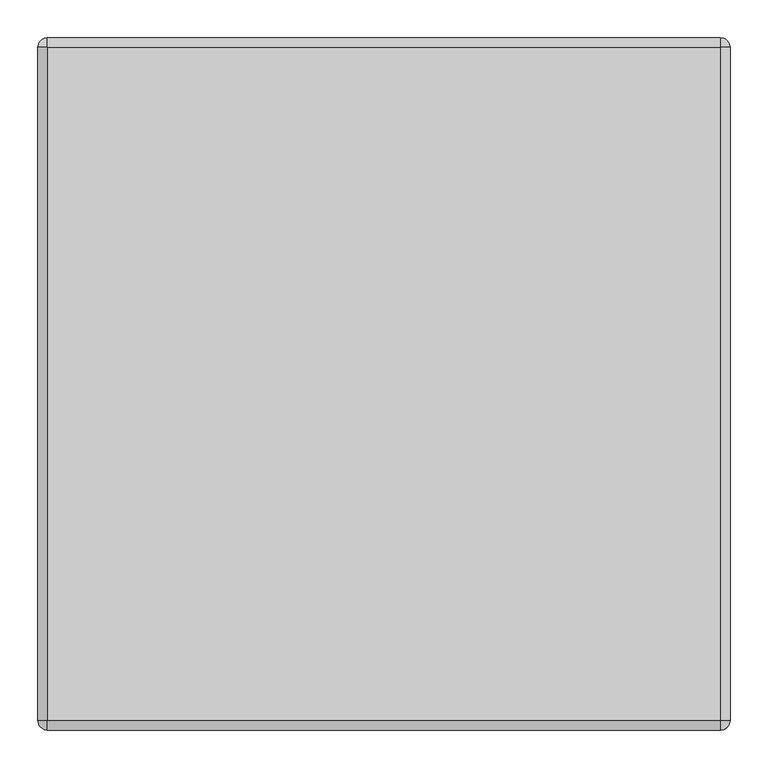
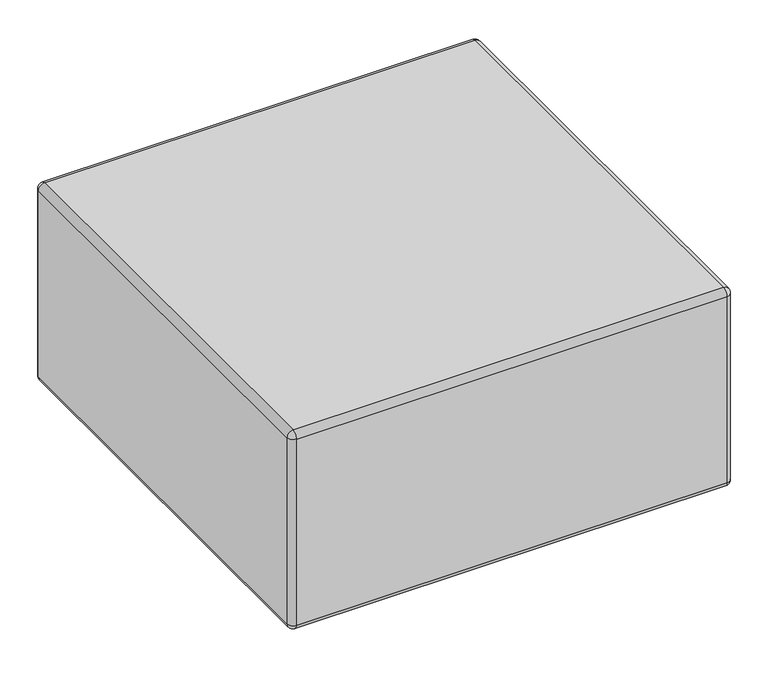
"""IFC4 building model written with IfcOpenShell, lengths in millimetres: furniture geometry, KFI Studios - Conversa : 36”x36” Seat."""

from ifc_helpers import new_model, si_unit, point, frame, origin, place, context, project, spatial, polyline, circle_curve, ellipse_curve, trimmed, source, transform, mapped, element, save
from ifc_brep_helpers import plane_surface, cylinder_surface, revolved_surface, advanced_brep


def furniture_c2843c0f(model_context):
    return source(origin(), model_context, "Body", "AdvancedBrep", [
        advanced_brep(
        [(373.3895895, -365.125, 25.4), (356.8604105, -365.125, 25.4), (365.125, -365.125, 25.4), (373.3895895, -365.125, 14.2843611), (356.8604105, -365.125, 14.2843611), (371.7876354, -365.125, 14.2843611), (358.4623646, -365.125, 14.2843611), (371.7876354, -365.125, 12.7064551), (358.4623646, -365.125, 12.7064551), (373.3890671, -365.125, 12.7064551), (356.8609329, -365.125, 12.7064551), (382.5741215, -365.125, 3.1950529), (347.6758785, -365.125, 3.1950529), (382.5741215, -365.125, 0.0), (347.6758785, -365.125, 0.0), (365.125, -365.125, 0.0)],
        [
            (0, 1, circle_curve(frame((365.125, -365.125, 25.4), z_axis=(0.0, 0.0, 1.0), x_axis=(-1.0, 0.0, 0.0)), 8.2645895)),
            (1, 2),
            (2, 0),
            (1, 0, circle_curve(frame((365.125, -365.125, 25.4), z_axis=(0.0, 0.0, 1.0), x_axis=(-1.0, 0.0, 0.0)), 8.2645895)),
            (3, 4, circle_curve(frame((365.125, -365.125, 14.2843611), z_axis=(0.0, 0.0, 1.0), x_axis=(-1.0, 0.0, 0.0)), 8.2645895)),
            (4, 1),
            (0, 3),
            (4, 3, circle_curve(frame((365.125, -365.125, 14.2843611), z_axis=(0.0, 0.0, 1.0), x_axis=(-1.0, 0.0, 0.0)), 8.2645895)),
            (5, 6, circle_curve(frame((365.125, -365.125, 14.2843611), z_axis=(0.0, 0.0, 1.0), x_axis=(-1.0, 0.0, 0.0)), 6.6626354)),
            (6, 4),
            (3, 5),
            (6, 5, circle_curve(frame((365.125, -365.125, 14.2843611), z_axis=(0.0, 0.0, 1.0), x_axis=(-1.0, 0.0, 0.0)), 6.6626354)),
            (7, 8, circle_curve(frame((365.125, -365.125, 12.7064551), z_axis=(0.0, 0.0, 1.0), x_axis=(-1.0, 0.0, 0.0)), 6.6626354)),
            (8, 6),
            (5, 7),
            (8, 7, circle_curve(frame((365.125, -365.125, 12.7064551), z_axis=(0.0, 0.0, 1.0), x_axis=(-1.0, 0.0, 0.0)), 6.6626354)),
            (9, 10, circle_curve(frame((365.125, -365.125, 12.7064551), z_axis=(0.0, 0.0, 1.0), x_axis=(-1.0, 0.0, 0.0)), 8.2640671)),
            (10, 8),
            (7, 9),
            (10, 9, circle_curve(frame((365.125, -365.125, 12.7064551), z_axis=(0.0, 0.0, 1.0), x_axis=(-1.0, 0.0, 0.0)), 8.2640671)),
            (11, 12, circle_curve(frame((365.125, -365.125, 3.1950529), z_axis=(0.0, 0.0, 1.0), x_axis=(-1.0, 0.0, 0.0)), 17.4491215)),
            (12, 10),
            (9, 11),
            (12, 11, circle_curve(frame((365.125, -365.125, 3.1950529), z_axis=(0.0, 0.0, 1.0), x_axis=(-1.0, 0.0, 0.0)), 17.4491215)),
            (13, 14, circle_curve(frame((365.125, -365.125, 0.0), z_axis=(0.0, 0.0, 1.0), x_axis=(-1.0, 0.0, 0.0)), 17.4491215)),
            (14, 12),
            (11, 13),
            (14, 13, circle_curve(frame((365.125, -365.125, 0.0), z_axis=(0.0, 0.0, 1.0), x_axis=(-1.0, 0.0, 0.0)), 17.4491215)),
            (15, 14),
            (13, 15),
        ],
        [
            plane_surface(frame((365.125, -365.125, 25.4), z_axis=(0.0, 0.0, 1.0), x_axis=(-1.0, 0.0, 0.0))),
            cylinder_surface(frame((365.125, -365.125, 33.820929), z_axis=(0.0, 0.0, -1.0), x_axis=(-1.0, 0.0, 0.0)), 8.2645895),
            plane_surface(frame((365.125, -365.125, 14.2843611), z_axis=(0.0, 0.0, -1.0), x_axis=(-1.0, 0.0, 0.0))),
            cylinder_surface(frame((365.125, -365.125, 33.820929), z_axis=(0.0, 0.0, -1.0), x_axis=(-1.0, 0.0, 0.0)), 6.6626354),
            plane_surface(frame((365.125, -365.125, 12.7064551), z_axis=(0.0, 0.0, 1.0), x_axis=(-1.0, 0.0, 0.0))),
            revolved_surface(polyline([(356.8609329, -365.125, 12.7064551), (347.6758785, -365.125, 3.1950529)]), (365.125, -365.125, 33.820929), (0.0, 0.0, -1.0)),
            cylinder_surface(frame((365.125, -365.125, 33.820929), z_axis=(0.0, 0.0, -1.0), x_axis=(-1.0, 0.0, 0.0)), 17.4491215),
            plane_surface(frame((365.125, -365.125, 0.0), z_axis=(0.0, 0.0, -1.0), x_axis=(-1.0, 0.0, 0.0))),
        ],
        [
            (0, [[1, 2, 3]]),
            (0, [[4, -3, -2]]),
            (1, [[5, 6, -1, 7]]),
            (1, [[8, -7, -4, -6]]),
            (2, [[9, 10, -5, 11]]),
            (2, [[12, -11, -8, -10]]),
            (3, [[13, 14, -9, 15]]),
            (3, [[16, -15, -12, -14]]),
            (4, [[17, 18, -13, 19]]),
            (4, [[20, -19, -16, -18]]),
            (5, [[21, 22, -17, 23]]),
            (5, [[24, -23, -20, -22]]),
            (6, [[25, 26, -21, 27]]),
            (6, [[28, -27, -24, -26]]),
            (7, [[29, -25, 30]]),
            (7, [[-30, -28, -29]]),
        ],
    ),
        advanced_brep(
        [(-356.8604105, -365.125, 25.4), (-373.3895895, -365.125, 25.4), (-365.125, -365.125, 25.4), (-356.8604105, -365.125, 14.2843611), (-373.3895895, -365.125, 14.2843611), (-358.4623646, -365.125, 14.2843611), (-371.7876354, -365.125, 14.2843611), (-358.4623646, -365.125, 12.7064551), (-371.7876354, -365.125, 12.7064551), (-356.8609329, -365.125, 12.7064551), (-373.3890671, -365.125, 12.7064551), (-347.6758785, -365.125, 3.1950529), (-382.5741215, -365.125, 3.1950529), (-347.6758785, -365.125, 0.0), (-382.5741215, -365.125, 0.0), (-365.125, -365.125, 0.0)],
        [
            (0, 1, circle_curve(frame((-365.125, -365.125, 25.4), z_axis=(0.0, 0.0, 1.0), x_axis=(-1.0, 0.0, 0.0)), 8.2645895)),
            (1, 2),
            (2, 0),
            (1, 0, circle_curve(frame((-365.125, -365.125, 25.4), z_axis=(0.0, 0.0, 1.0), x_axis=(-1.0, 0.0, 0.0)), 8.2645895)),
            (3, 4, circle_curve(frame((-365.125, -365.125, 14.2843611), z_axis=(0.0, 0.0, 1.0), x_axis=(-1.0, 0.0, 0.0)), 8.2645895)),
            (4, 1),
            (0, 3),
            (4, 3, circle_curve(frame((-365.125, -365.125, 14.2843611), z_axis=(0.0, 0.0, 1.0), x_axis=(-1.0, 0.0, 0.0)), 8.2645895)),
            (5, 6, circle_curve(frame((-365.125, -365.125, 14.2843611), z_axis=(0.0, 0.0, 1.0), x_axis=(-1.0, 0.0, 0.0)), 6.6626354)),
            (6, 4),
            (3, 5),
            (6, 5, circle_curve(frame((-365.125, -365.125, 14.2843611), z_axis=(0.0, 0.0, 1.0), x_axis=(-1.0, 0.0, 0.0)), 6.6626354)),
            (7, 8, circle_curve(frame((-365.125, -365.125, 12.7064551), z_axis=(0.0, 0.0, 1.0), x_axis=(-1.0, 0.0, 0.0)), 6.6626354)),
            (8, 6),
            (5, 7),
            (8, 7, circle_curve(frame((-365.125, -365.125, 12.7064551), z_axis=(0.0, 0.0, 1.0), x_axis=(-1.0, 0.0, 0.0)), 6.6626354)),
            (9, 10, circle_curve(frame((-365.125, -365.125, 12.7064551), z_axis=(0.0, 0.0, 1.0), x_axis=(-1.0, 0.0, 0.0)), 8.2640671)),
            (10, 8),
            (7, 9),
            (10, 9, circle_curve(frame((-365.125, -365.125, 12.7064551), z_axis=(0.0, 0.0, 1.0), x_axis=(-1.0, 0.0, 0.0)), 8.2640671)),
            (11, 12, circle_curve(frame((-365.125, -365.125, 3.1950529), z_axis=(0.0, 0.0, 1.0), x_axis=(-1.0, 0.0, 0.0)), 17.4491215)),
            (12, 10),
            (9, 11),
            (12, 11, circle_curve(frame((-365.125, -365.125, 3.1950529), z_axis=(0.0, 0.0, 1.0), x_axis=(-1.0, 0.0, 0.0)), 17.4491215)),
            (13, 14, circle_curve(frame((-365.125, -365.125, 0.0), z_axis=(0.0, 0.0, 1.0), x_axis=(-1.0, 0.0, 0.0)), 17.4491215)),
            (14, 12),
            (11, 13),
            (14, 13, circle_curve(frame((-365.125, -365.125, 0.0), z_axis=(0.0, 0.0, 1.0), x_axis=(-1.0, 0.0, 0.0)), 17.4491215)),
            (15, 14),
            (13, 15),
        ],
        [
            plane_surface(frame((-365.125, -365.125, 25.4), z_axis=(0.0, 0.0, 1.0), x_axis=(-1.0, 0.0, 0.0))),
            cylinder_surface(frame((-365.125, -365.125, 33.820929), z_axis=(0.0, 0.0, -1.0), x_axis=(-1.0, 0.0, 0.0)), 8.2645895),
            plane_surface(frame((-365.125, -365.125, 14.2843611), z_axis=(0.0, 0.0, -1.0), x_axis=(-1.0, 0.0, 0.0))),
            cylinder_surface(frame((-365.125, -365.125, 33.820929), z_axis=(0.0, 0.0, -1.0), x_axis=(-1.0, 0.0, 0.0)), 6.6626354),
            plane_surface(frame((-365.125, -365.125, 12.7064551), z_axis=(0.0, 0.0, 1.0), x_axis=(-1.0, 0.0, 0.0))),
            revolved_surface(polyline([(-373.3890671, -365.125, 12.7064551), (-382.5741215, -365.125, 3.1950529)]), (-365.125, -365.125, 33.820929), (0.0, 0.0, -1.0)),
            cylinder_surface(frame((-365.125, -365.125, 33.820929), z_axis=(0.0, 0.0, -1.0), x_axis=(-1.0, 0.0, 0.0)), 17.4491215),
            plane_surface(frame((-365.125, -365.125, 0.0), z_axis=(0.0, 0.0, -1.0), x_axis=(-1.0, 0.0, 0.0))),
        ],
        [
            (0, [[1, 2, 3]]),
            (0, [[4, -3, -2]]),
            (1, [[5, 6, -1, 7]]),
            (1, [[8, -7, -4, -6]]),
            (2, [[9, 10, -5, 11]]),
            (2, [[12, -11, -8, -10]]),
            (3, [[13, 14, -9, 15]]),
            (3, [[16, -15, -12, -14]]),
            (4, [[17, 18, -13, 19]]),
            (4, [[20, -19, -16, -18]]),
            (5, [[21, 22, -17, 23]]),
            (5, [[24, -23, -20, -22]]),
            (6, [[25, 26, -21, 27]]),
            (6, [[28, -27, -24, -26]]),
            (7, [[29, -25, 30]]),
            (7, [[-30, -28, -29]]),
        ],
    ),
        advanced_brep(
        [(373.3895895, 365.125, 25.4), (365.125, 365.125, 25.4), (356.8604105, 365.125, 25.4), (373.3895895, 365.125, 14.2843611), (356.8604105, 365.125, 14.2843611), (371.7876354, 365.125, 14.2843611), (358.4623646, 365.125, 14.2843611), (371.7876354, 365.125, 12.7064551), (358.4623646, 365.125, 12.7064551), (373.3890671, 365.125, 12.7064551), (356.8609329, 365.125, 12.7064551), (382.5741215, 365.125, 3.1950529), (347.6758785, 365.125, 3.1950529), (382.5741215, 365.125, 0.0), (347.6758785, 365.125, 0.0), (365.125, 365.125, 0.0)],
        [
            (0, 1),
            (1, 2),
            (2, 0, circle_curve(frame((365.125, 365.125, 25.4), z_axis=(0.0, 0.0, 1.0), x_axis=(-1.0, 0.0, 0.0)), 8.2645895)),
            (0, 2, circle_curve(frame((365.125, 365.125, 25.4), z_axis=(0.0, 0.0, 1.0), x_axis=(-1.0, 0.0, 0.0)), 8.2645895)),
            (3, 0),
            (2, 4),
            (4, 3, circle_curve(frame((365.125, 365.125, 14.2843611), z_axis=(0.0, 0.0, 1.0), x_axis=(-1.0, 0.0, 0.0)), 8.2645895)),
            (3, 4, circle_curve(frame((365.125, 365.125, 14.2843611), z_axis=(0.0, 0.0, 1.0), x_axis=(-1.0, 0.0, 0.0)), 8.2645895)),
            (5, 3),
            (4, 6),
            (6, 5, circle_curve(frame((365.125, 365.125, 14.2843611), z_axis=(0.0, 0.0, 1.0), x_axis=(-1.0, 0.0, 0.0)), 6.6626354)),
            (5, 6, circle_curve(frame((365.125, 365.125, 14.2843611), z_axis=(0.0, 0.0, 1.0), x_axis=(-1.0, 0.0, 0.0)), 6.6626354)),
            (7, 5),
            (6, 8),
            (8, 7, circle_curve(frame((365.125, 365.125, 12.7064551), z_axis=(0.0, 0.0, 1.0), x_axis=(-1.0, 0.0, 0.0)), 6.6626354)),
            (7, 8, circle_curve(frame((365.125, 365.125, 12.7064551), z_axis=(0.0, 0.0, 1.0), x_axis=(-1.0, 0.0, 0.0)), 6.6626354)),
            (9, 7),
            (8, 10),
            (10, 9, circle_curve(frame((365.125, 365.125, 12.7064551), z_axis=(0.0, 0.0, 1.0), x_axis=(-1.0, 0.0, 0.0)), 8.2640671)),
            (9, 10, circle_curve(frame((365.125, 365.125, 12.7064551), z_axis=(0.0, 0.0, 1.0), x_axis=(-1.0, 0.0, 0.0)), 8.2640671)),
            (11, 9),
            (10, 12),
            (12, 11, circle_curve(frame((365.125, 365.125, 3.1950529), z_axis=(0.0, 0.0, 1.0), x_axis=(-1.0, 0.0, 0.0)), 17.4491215)),
            (11, 12, circle_curve(frame((365.125, 365.125, 3.1950529), z_axis=(0.0, 0.0, 1.0), x_axis=(-1.0, 0.0, 0.0)), 17.4491215)),
            (13, 11),
            (12, 14),
            (14, 13, circle_curve(frame((365.125, 365.125, 0.0), z_axis=(0.0, 0.0, 1.0), x_axis=(-1.0, 0.0, 0.0)), 17.4491215)),
            (13, 14, circle_curve(frame((365.125, 365.125, 0.0), z_axis=(0.0, 0.0, 1.0), x_axis=(-1.0, 0.0, 0.0)), 17.4491215)),
            (15, 13),
            (14, 15),
        ],
        [
            plane_surface(frame((365.125, 365.125, 25.4), z_axis=(0.0, 0.0, 1.0), x_axis=(-1.0, 0.0, 0.0))),
            cylinder_surface(frame((365.125, 365.125, 33.820929), z_axis=(0.0, 0.0, -1.0), x_axis=(-1.0, 0.0, 0.0)), 8.2645895),
            plane_surface(frame((365.125, 365.125, 14.2843611), z_axis=(0.0, 0.0, -1.0), x_axis=(-1.0, 0.0, 0.0))),
            cylinder_surface(frame((365.125, 365.125, 33.820929), z_axis=(0.0, 0.0, -1.0), x_axis=(-1.0, 0.0, 0.0)), 6.6626354),
            plane_surface(frame((365.125, 365.125, 12.7064551), z_axis=(0.0, 0.0, 1.0), x_axis=(-1.0, 0.0, 0.0))),
            revolved_surface(polyline([(356.8609329, 365.125, 12.7064551), (347.6758785, 365.125, 3.1950529)]), (365.125, 365.125, 33.820929), (0.0, 0.0, -1.0)),
            cylinder_surface(frame((365.125, 365.125, 33.820929), z_axis=(0.0, 0.0, -1.0), x_axis=(-1.0, 0.0, 0.0)), 17.4491215),
            plane_surface(frame((365.125, 365.125, 0.0), z_axis=(0.0, 0.0, -1.0), x_axis=(-1.0, 0.0, 0.0))),
        ],
        [
            (0, [[1, 2, 3]]),
            (0, [[-2, -1, 4]]),
            (1, [[5, -3, 6, 7]]),
            (1, [[-6, -4, -5, 8]]),
            (2, [[9, -7, 10, 11]]),
            (2, [[-10, -8, -9, 12]]),
            (3, [[13, -11, 14, 15]]),
            (3, [[-14, -12, -13, 16]]),
            (4, [[17, -15, 18, 19]]),
            (4, [[-18, -16, -17, 20]]),
            (5, [[21, -19, 22, 23]]),
            (5, [[-22, -20, -21, 24]]),
            (6, [[25, -23, 26, 27]]),
            (6, [[-26, -24, -25, 28]]),
            (7, [[29, -27, 30]]),
            (7, [[-30, -28, -29]]),
        ],
    ),
        advanced_brep(
        [(-356.8604105, 365.125, 25.4), (-365.125, 365.125, 25.4), (-373.3895895, 365.125, 25.4), (-356.8604105, 365.125, 14.2843611), (-373.3895895, 365.125, 14.2843611), (-358.4623646, 365.125, 14.2843611), (-371.7876354, 365.125, 14.2843611), (-358.4623646, 365.125, 12.7064551), (-371.7876354, 365.125, 12.7064551), (-356.8609329, 365.125, 12.7064551), (-373.3890671, 365.125, 12.7064551), (-347.6758785, 365.125, 3.1950529), (-382.5741215, 365.125, 3.1950529), (-347.6758785, 365.125, 0.0), (-382.5741215, 365.125, 0.0), (-365.125, 365.125, 0.0)],
        [
            (0, 1),
            (1, 2),
            (2, 0, circle_curve(frame((-365.125, 365.125, 25.4), z_axis=(0.0, 0.0, 1.0), x_axis=(-1.0, 0.0, 0.0)), 8.2645895)),
            (0, 2, circle_curve(frame((-365.125, 365.125, 25.4), z_axis=(0.0, 0.0, 1.0), x_axis=(-1.0, 0.0, 0.0)), 8.2645895)),
            (3, 0),
            (2, 4),
            (4, 3, circle_curve(frame((-365.125, 365.125, 14.2843611), z_axis=(0.0, 0.0, 1.0), x_axis=(-1.0, 0.0, 0.0)), 8.2645895)),
            (3, 4, circle_curve(frame((-365.125, 365.125, 14.2843611), z_axis=(0.0, 0.0, 1.0), x_axis=(-1.0, 0.0, 0.0)), 8.2645895)),
            (5, 3),
            (4, 6),
            (6, 5, circle_curve(frame((-365.125, 365.125, 14.2843611), z_axis=(0.0, 0.0, 1.0), x_axis=(-1.0, 0.0, 0.0)), 6.6626354)),
            (5, 6, circle_curve(frame((-365.125, 365.125, 14.2843611), z_axis=(0.0, 0.0, 1.0), x_axis=(-1.0, 0.0, 0.0)), 6.6626354)),
            (7, 5),
            (6, 8),
            (8, 7, circle_curve(frame((-365.125, 365.125, 12.7064551), z_axis=(0.0, 0.0, 1.0), x_axis=(-1.0, 0.0, 0.0)), 6.6626354)),
            (7, 8, circle_curve(frame((-365.125, 365.125, 12.7064551), z_axis=(0.0, 0.0, 1.0), x_axis=(-1.0, 0.0, 0.0)), 6.6626354)),
            (9, 7),
            (8, 10),
            (10, 9, circle_curve(frame((-365.125, 365.125, 12.7064551), z_axis=(0.0, 0.0, 1.0), x_axis=(-1.0, 0.0, 0.0)), 8.2640671)),
            (9, 10, circle_curve(frame((-365.125, 365.125, 12.7064551), z_axis=(0.0, 0.0, 1.0), x_axis=(-1.0, 0.0, 0.0)), 8.2640671)),
            (11, 9),
            (10, 12),
            (12, 11, circle_curve(frame((-365.125, 365.125, 3.1950529), z_axis=(0.0, 0.0, 1.0), x_axis=(-1.0, 0.0, 0.0)), 17.4491215)),
            (11, 12, circle_curve(frame((-365.125, 365.125, 3.1950529), z_axis=(0.0, 0.0, 1.0), x_axis=(-1.0, 0.0, 0.0)), 17.4491215)),
            (13, 11),
            (12, 14),
            (14, 13, circle_curve(frame((-365.125, 365.125, 0.0), z_axis=(0.0, 0.0, 1.0), x_axis=(-1.0, 0.0, 0.0)), 17.4491215)),
            (13, 14, circle_curve(frame((-365.125, 365.125, 0.0), z_axis=(0.0, 0.0, 1.0), x_axis=(-1.0, 0.0, 0.0)), 17.4491215)),
            (15, 13),
            (14, 15),
        ],
        [
            plane_surface(frame((-365.125, 365.125, 25.4), z_axis=(0.0, 0.0, 1.0), x_axis=(-1.0, 0.0, 0.0))),
            cylinder_surface(frame((-365.125, 365.125, 33.820929), z_axis=(0.0, 0.0, -1.0), x_axis=(-1.0, 0.0, 0.0)), 8.2645895),
            plane_surface(frame((-365.125, 365.125, 14.2843611), z_axis=(0.0, 0.0, -1.0), x_axis=(-1.0, 0.0, 0.0))),
            cylinder_surface(frame((-365.125, 365.125, 33.820929), z_axis=(0.0, 0.0, -1.0), x_axis=(-1.0, 0.0, 0.0)), 6.6626354),
            plane_surface(frame((-365.125, 365.125, 12.7064551), z_axis=(0.0, 0.0, 1.0), x_axis=(-1.0, 0.0, 0.0))),
            revolved_surface(polyline([(-373.3890671, 365.125, 12.7064551), (-382.5741215, 365.125, 3.1950529)]), (-365.125, 365.125, 33.820929), (0.0, 0.0, -1.0)),
            cylinder_surface(frame((-365.125, 365.125, 33.820929), z_axis=(0.0, 0.0, -1.0), x_axis=(-1.0, 0.0, 0.0)), 17.4491215),
            plane_surface(frame((-365.125, 365.125, 0.0), z_axis=(0.0, 0.0, -1.0), x_axis=(-1.0, 0.0, 0.0))),
        ],
        [
            (0, [[1, 2, 3]]),
            (0, [[-2, -1, 4]]),
            (1, [[5, -3, 6, 7]]),
            (1, [[-6, -4, -5, 8]]),
            (2, [[9, -7, 10, 11]]),
            (2, [[-10, -8, -9, 12]]),
            (3, [[13, -11, 14, 15]]),
            (3, [[-14, -12, -13, 16]]),
            (4, [[17, -15, 18, 19]]),
            (4, [[-18, -16, -17, 20]]),
            (5, [[21, -19, 22, 23]]),
            (5, [[-22, -20, -21, 24]]),
            (6, [[25, -23, 26, 27]]),
            (6, [[-26, -24, -25, 28]]),
            (7, [[29, -27, 30]]),
            (7, [[-30, -28, -29]]),
        ],
    ),
        advanced_brep(
        [(-457.2, -444.5, 444.5), (-444.5, -444.5, 457.2), (-444.5, 444.5, 457.2), (-457.2, 444.5, 444.5), (-457.2, 444.5, 38.1), (-457.2, -444.5, 38.1), (-444.5, 444.5, 25.4), (-444.5, -444.5, 25.4), (-444.5, 457.2, 444.5), (444.5, 444.5, 457.2), (444.5, 457.2, 444.5), (444.5, 457.2, 38.1), (-444.5, 457.2, 38.1), (444.5, 444.5, 25.4), (444.5, -444.5, 457.2), (444.5, -444.5, 25.4), (444.5, -457.2, 444.5), (-444.5, -457.2, 444.5), (-444.5, -457.2, 38.1), (444.5, -457.2, 38.1), (457.2, 444.5, 444.5), (457.2, -444.5, 444.5), (457.2, -444.5, 38.1), (457.2, 444.5, 38.1)],
        [
            (0, 1, circle_curve(frame((-444.5, -444.5, 444.5), z_axis=(0.0, 1.0, 0.0), x_axis=(-1.0, 0.0, 0.0)), 12.7)),
            (1, 2),
            (2, 3, circle_curve(frame((-444.5, 444.5, 444.5), z_axis=(0.0, -1.0, 0.0), x_axis=(-1.0, 0.0, 0.0)), 12.7)),
            (3, 0),
            (3, 4),
            (4, 5),
            (5, 0),
            (4, 6, circle_curve(frame((-444.5, 444.5, 38.1), z_axis=(0.0, -1.0, 0.0), x_axis=(-1.0, 0.0, 0.0)), 12.7)),
            (6, 7),
            (7, 5, circle_curve(frame((-444.5, -444.5, 38.1), z_axis=(0.0, 1.0, 0.0), x_axis=(-1.0, 0.0, 0.0)), 12.7)),
            (8, 2, circle_curve(frame((-444.5, 444.5, 444.5), z_axis=(1.0, 0.0, 0.0), x_axis=(0.0, -1.0, 0.0)), 12.7)),
            (2, 9),
            (9, 10, circle_curve(frame((444.5, 444.5, 444.5), z_axis=(-1.0, 0.0, 0.0), x_axis=(0.0, -1.0, 0.0)), 12.7)),
            (10, 8),
            (10, 11),
            (11, 12),
            (12, 8),
            (11, 13, circle_curve(frame((444.5, 444.5, 38.1), z_axis=(-1.0, 0.0, 0.0), x_axis=(0.0, -1.0, 0.0)), 12.7)),
            (13, 6),
            (6, 12, circle_curve(frame((-444.5, 444.5, 38.1), z_axis=(1.0, 0.0, 0.0), x_axis=(0.0, -1.0, 0.0)), 12.7)),
            (1, 14),
            (14, 9),
            (13, 15),
            (15, 7),
            (16, 14, circle_curve(frame((444.5, -444.5, 444.5), z_axis=(-1.0, 0.0, 0.0), x_axis=(0.0, -1.0, 0.0)), 12.7)),
            (1, 17, circle_curve(frame((-444.5, -444.5, 444.5), z_axis=(1.0, 0.0, 0.0), x_axis=(0.0, -1.0, 0.0)), 12.7)),
            (17, 16),
            (17, 18),
            (18, 19),
            (19, 16),
            (18, 7, circle_curve(frame((-444.5, -444.5, 38.1), z_axis=(1.0, 0.0, 0.0), x_axis=(0.0, -1.0, 0.0)), 12.7)),
            (15, 19, circle_curve(frame((444.5, -444.5, 38.1), z_axis=(-1.0, 0.0, 0.0), x_axis=(0.0, -1.0, 0.0)), 12.7)),
            (20, 9, circle_curve(frame((444.5, 444.5, 444.5), z_axis=(0.0, -1.0, 0.0), x_axis=(-1.0, 0.0, 0.0)), 12.7)),
            (14, 21, circle_curve(frame((444.5, -444.5, 444.5), z_axis=(0.0, 1.0, 0.0), x_axis=(-1.0, 0.0, 0.0)), 12.7)),
            (21, 20),
            (21, 22),
            (22, 23),
            (23, 20),
            (22, 15, circle_curve(frame((444.5, -444.5, 38.1), z_axis=(0.0, 1.0, 0.0), x_axis=(-1.0, 0.0, 0.0)), 12.7)),
            (13, 23, circle_curve(frame((444.5, 444.5, 38.1), z_axis=(0.0, -1.0, 0.0), x_axis=(-1.0, 0.0, 0.0)), 12.7)),
            (17, 0, circle_curve(frame((-444.5, -444.5, 444.5), z_axis=(0.0, 0.0, -1.0), x_axis=(-1.0, 0.0, 0.0)), 12.7)),
            (5, 18, circle_curve(frame((-444.5, -444.5, 38.1), z_axis=(0.0, 0.0, 1.0), x_axis=(-1.0, 0.0, 0.0)), 12.7)),
            (12, 4, circle_curve(frame((-444.5, 444.5, 38.1), z_axis=(0.0, 0.0, 1.0), x_axis=(-1.0, 0.0, 0.0)), 12.7)),
            (3, 8, circle_curve(frame((-444.5, 444.5, 444.5), z_axis=(0.0, 0.0, -1.0), x_axis=(-1.0, 0.0, 0.0)), 12.7)),
            (10, 20, circle_curve(frame((444.5, 444.5, 444.5), z_axis=(0.0, 0.0, -1.0), x_axis=(1.0, 0.0, 0.0)), 12.7)),
            (23, 11, circle_curve(frame((444.5, 444.5, 38.1), z_axis=(0.0, 0.0, 1.0), x_axis=(1.0, 0.0, 0.0)), 12.7)),
            (19, 22, circle_curve(frame((444.5, -444.5, 38.1), z_axis=(0.0, 0.0, 1.0), x_axis=(1.0, 0.0, 0.0)), 12.7)),
            (21, 16, circle_curve(frame((444.5, -444.5, 444.5), z_axis=(0.0, 0.0, -1.0), x_axis=(1.0, 0.0, 0.0)), 12.7)),
        ],
        [
            cylinder_surface(frame((-444.5, 444.5, 444.5), z_axis=(0.0, 1.0, 0.0), x_axis=(-1.0, 0.0, 0.0)), 12.7),
            plane_surface(frame((-457.2, 444.5, 444.5), z_axis=(-1.0, 0.0, 0.0), x_axis=(0.0, -1.0, 0.0))),
            cylinder_surface(frame((-444.5, 444.5, 38.1), z_axis=(0.0, 1.0, 0.0), x_axis=(-1.0, 0.0, 0.0)), 12.7),
            cylinder_surface(frame((-444.5, 444.5, 444.5), z_axis=(-1.0, 0.0, 0.0), x_axis=(0.0, -1.0, 0.0)), 12.7),
            plane_surface(frame((-444.5, 457.2, 38.1), z_axis=(0.0, 1.0, 0.0), x_axis=(1.0, 0.0, 0.0))),
            cylinder_surface(frame((-444.5, 444.5, 38.1), z_axis=(-1.0, 0.0, 0.0), x_axis=(0.0, -1.0, 0.0)), 12.7),
            plane_surface(frame((-444.5, -444.5, 457.2), z_axis=(0.0, 0.0, 1.0), x_axis=(-1.0, 0.0, 0.0))),
            plane_surface(frame((-444.5, -444.5, 25.4), z_axis=(0.0, 0.0, -1.0), x_axis=(1.0, 0.0, 0.0))),
            cylinder_surface(frame((-444.5, -444.5, 444.5), z_axis=(-1.0, 0.0, 0.0), x_axis=(0.0, -1.0, 0.0)), 12.7),
            plane_surface(frame((-444.5, -457.2, 444.5), z_axis=(0.0, -1.0, 0.0), x_axis=(1.0, 0.0, 0.0))),
            cylinder_surface(frame((-444.5, -444.5, 38.1), z_axis=(-1.0, 0.0, 0.0), x_axis=(0.0, -1.0, 0.0)), 12.7),
            cylinder_surface(frame((444.5, 444.5, 444.5), z_axis=(0.0, 1.0, 0.0), x_axis=(-1.0, 0.0, 0.0)), 12.7),
            plane_surface(frame((457.2, 444.5, 38.1), z_axis=(1.0, 0.0, 0.0), x_axis=(0.0, -1.0, 0.0))),
            cylinder_surface(frame((444.5, 444.5, 38.1), z_axis=(0.0, 1.0, 0.0), x_axis=(-1.0, 0.0, 0.0)), 12.7),
            cylinder_surface(frame((-444.5, -444.5, 457.2), z_axis=(0.0, 0.0, 1.0), x_axis=(-1.0, 0.0, 0.0)), 12.7),
            revolved_surface(trimmed(ellipse_curve(frame((-444.5, -444.5, 38.1), z_axis=(0.0, 1.0, 0.0), x_axis=(0.0, 0.0, 1.0)), 12.7, 12.7), [point((-444.5, -444.5, 25.4))], [point((-457.2, -444.5, 38.1))], True, "CARTESIAN"), (-444.5, -444.5, 457.2), (0.0, 0.0, 1.0)),
            revolved_surface(trimmed(ellipse_curve(frame((-444.5, -444.5, 444.5), z_axis=(0.0, 1.0, 0.0), x_axis=(0.0, 0.0, 1.0)), 12.7, 12.7), [point((-457.2, -444.5, 444.5))], [point((-444.5, -444.5, 457.2))], True, "CARTESIAN"), (-444.5, -444.5, 457.2), (0.0, 0.0, 1.0)),
            cylinder_surface(frame((-444.5, 444.5, 306.9189642), z_axis=(0.0, 0.0, -1.0), x_axis=(-1.0, 0.0, 0.0)), 12.7),
            revolved_surface(trimmed(ellipse_curve(frame((-444.5, 444.5, 444.5), z_axis=(0.0, -1.0, 0.0), x_axis=(1.0, 0.0, 0.0)), 12.7, 12.7), [point((-444.5, 444.5, 457.2))], [point((-457.2, 444.5, 444.5))], True, "CARTESIAN"), (-444.5, 444.5, 306.9189642), (0.0, 0.0, -1.0)),
            revolved_surface(trimmed(ellipse_curve(frame((-444.5, 444.5, 38.1), z_axis=(0.0, -1.0, 0.0), x_axis=(1.0, 0.0, 0.0)), 12.7, 12.7), [point((-457.2, 444.5, 38.1))], [point((-444.5, 444.5, 25.4))], True, "CARTESIAN"), (-444.5, 444.5, 306.9189642), (0.0, 0.0, -1.0)),
            cylinder_surface(frame((444.5, 444.5, 457.2), z_axis=(0.0, 0.0, 1.0), x_axis=(1.0, 0.0, 0.0)), 12.7),
            revolved_surface(trimmed(ellipse_curve(frame((444.5, 444.5, 38.1), z_axis=(0.0, -1.0, 0.0), x_axis=(1.0, 0.0, 0.0)), 12.7, 12.7), [point((444.5, 444.5, 25.4))], [point((457.2, 444.5, 38.1))], True, "CARTESIAN"), (444.5, 444.5, 457.2), (0.0, 0.0, 1.0)),
            revolved_surface(trimmed(ellipse_curve(frame((444.5, 444.5, 444.5), z_axis=(0.0, -1.0, 0.0), x_axis=(1.0, 0.0, 0.0)), 12.7, 12.7), [point((457.2, 444.5, 444.5))], [point((444.5, 444.5, 457.2))], True, "CARTESIAN"), (444.5, 444.5, 457.2), (0.0, 0.0, 1.0)),
            cylinder_surface(frame((444.5, -444.5, 306.9189642), z_axis=(0.0, 0.0, -1.0), x_axis=(1.0, 0.0, 0.0)), 12.7),
            revolved_surface(trimmed(ellipse_curve(frame((444.5, -444.5, 444.5), z_axis=(0.0, 1.0, 0.0), x_axis=(0.0, 0.0, 1.0)), 12.7, 12.7), [point((444.5, -444.5, 457.2))], [point((457.2, -444.5, 444.5))], True, "CARTESIAN"), (444.5, -444.5, 306.9189642), (0.0, 0.0, -1.0)),
            revolved_surface(trimmed(ellipse_curve(frame((444.5, -444.5, 38.1), z_axis=(0.0, 1.0, 0.0), x_axis=(0.0, 0.0, 1.0)), 12.7, 12.7), [point((457.2, -444.5, 38.1))], [point((444.5, -444.5, 25.4))], True, "CARTESIAN"), (444.5, -444.5, 306.9189642), (0.0, 0.0, -1.0)),
        ],
        [
            (0, [[1, 2, 3, 4]]),
            (1, [[5, 6, 7, -4]]),
            (2, [[8, 9, 10, -6]]),
            (3, [[11, 12, 13, 14]]),
            (4, [[15, 16, 17, -14]]),
            (5, [[18, 19, 20, -16]]),
            (6, [[21, 22, -12, -2]]),
            (7, [[-19, 23, 24, -9]]),
            (8, [[25, -21, 26, 27]]),
            (9, [[28, 29, 30, -27]]),
            (10, [[31, -24, 32, -29]]),
            (11, [[33, -22, 34, 35]]),
            (12, [[36, 37, 38, -35]]),
            (13, [[39, -23, 40, -37]]),
            (14, [[-28, 41, -7, 42]]),
            (15, [[-10, -31, -42]]),
            (16, [[-26, -1, -41]]),
            (17, [[-17, 43, -5, 44]]),
            (18, [[-3, -11, -44]]),
            (19, [[-20, -8, -43]]),
            (20, [[-15, 45, -38, 46]]),
            (21, [[-40, -18, -46]]),
            (22, [[-13, -33, -45]]),
            (23, [[-30, 47, -36, 48]]),
            (24, [[-34, -25, -48]]),
            (25, [[-32, -39, -47]]),
        ],
    ),
    ])


if __name__ == "__main__":
    model = new_model("IFC4")
    model_context = context("Model", 3, world=origin())
    ifc_project = project(units=[si_unit("LENGTHUNIT", "METRE", prefix="MILLI")], contexts=[model_context])
    site = spatial("IfcSite", under=ifc_project)
    building = spatial("IfcBuilding", under=site)
    placement = place(None, origin())
    furniture_shape = furniture_c2843c0f(model_context)
    element("IfcFurniture", 1, ObjectType="KFI Studios - Conversa : 36”x36” Seat", at=placement, inside=building, context=model_context, shape_type="MappedRepresentation", body=[
        mapped(furniture_shape, transform((0.0, 0.0, 0.0), x_axis=(1.0, 0.0, 0.0), y_axis=(0.0, 1.0, 0.0), z_axis=(0.0, 0.0, 1.0))),
    ])
    save(model, "model.ifc")
